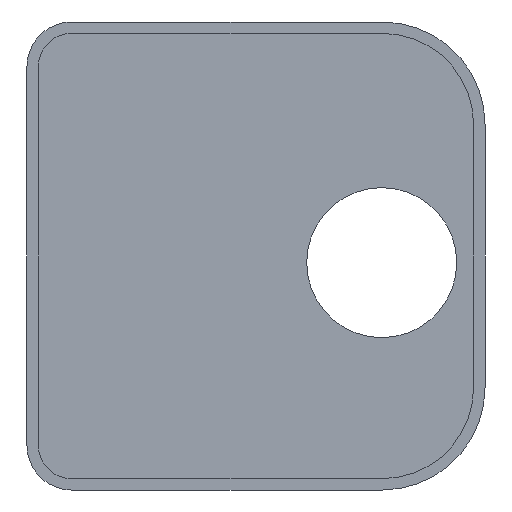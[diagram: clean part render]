
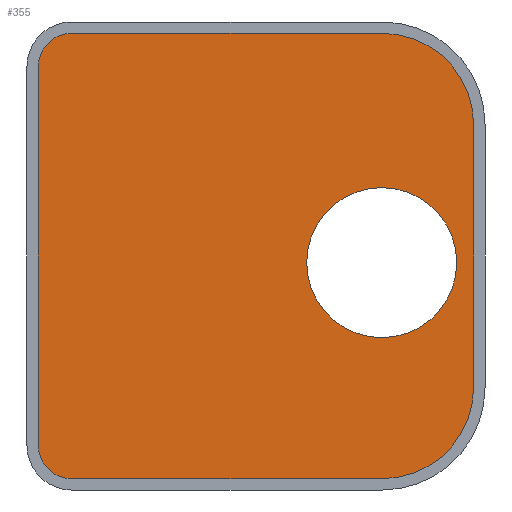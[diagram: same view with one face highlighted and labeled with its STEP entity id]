
A CAD part, front view. The second image highlights one B-rep face of the part: STEP entity #355.
In plain terms, the highlighted planar face has unit normal (0, -1, 0).
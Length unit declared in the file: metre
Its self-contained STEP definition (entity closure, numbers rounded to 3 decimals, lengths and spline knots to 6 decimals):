
#13=CIRCLE('',#382,0.003983);
#15=CIRCLE('',#386,0.001449);
#17=CIRCLE('',#390,0.001449);
#18=CIRCLE('',#393,0.003278);
#21=CIRCLE('',#397,0.003983);
#73=ORIENTED_EDGE('',*,*,#161,.T.);
#74=ORIENTED_EDGE('',*,*,#141,.T.);
#75=ORIENTED_EDGE('',*,*,#164,.F.);
#76=ORIENTED_EDGE('',*,*,#159,.F.);
#77=ORIENTED_EDGE('',*,*,#156,.F.);
#78=ORIENTED_EDGE('',*,*,#153,.F.);
#79=ORIENTED_EDGE('',*,*,#150,.F.);
#80=ORIENTED_EDGE('',*,*,#147,.T.);
#81=ORIENTED_EDGE('',*,*,#144,.F.);
#141=EDGE_CURVE('',#192,#191,#225,.T.);
#144=EDGE_CURVE('',#192,#194,#13,.T.);
#147=EDGE_CURVE('',#196,#194,#229,.T.);
#150=EDGE_CURVE('',#196,#198,#15,.T.);
#153=EDGE_CURVE('',#198,#200,#233,.T.);
#156=EDGE_CURVE('',#200,#202,#17,.T.);
#159=EDGE_CURVE('',#202,#204,#237,.T.);
#161=EDGE_CURVE('',#205,#205,#18,.T.);
#164=EDGE_CURVE('',#204,#191,#21,.T.);
#191=VERTEX_POINT('',#533);
#192=VERTEX_POINT('',#535);
#194=VERTEX_POINT('',#541);
#196=VERTEX_POINT('',#547);
#198=VERTEX_POINT('',#553);
#200=VERTEX_POINT('',#559);
#202=VERTEX_POINT('',#565);
#204=VERTEX_POINT('',#571);
#205=VERTEX_POINT('',#575);
#225=LINE('',#534,#257);
#229=LINE('',#546,#261);
#233=LINE('',#558,#265);
#237=LINE('',#570,#269);
#257=VECTOR('',#423,1.);
#261=VECTOR('',#435,1.);
#265=VECTOR('',#447,1.);
#269=VECTOR('',#459,1.);
#297=EDGE_LOOP('',(#73));
#298=EDGE_LOOP('',(#74,#75,#76,#77,#78,#79,#80,#81));
#321=FACE_BOUND('',#297,.T.);
#322=FACE_BOUND('',#298,.T.);
#339=PLANE('',#398);
#355=ADVANCED_FACE('',(#321,#322),#339,.F.);
#382=AXIS2_PLACEMENT_3D('',#540,#429,#430);
#386=AXIS2_PLACEMENT_3D('',#552,#441,#442);
#390=AXIS2_PLACEMENT_3D('',#564,#453,#454);
#393=AXIS2_PLACEMENT_3D('',#574,#463,#464);
#397=AXIS2_PLACEMENT_3D('',#580,#471,#472);
#398=AXIS2_PLACEMENT_3D('',#581,#473,#474);
#423=DIRECTION('',(0.,0.,1.));
#429=DIRECTION('',(0.,1.,0.));
#430=DIRECTION('',(1.,0.,0.));
#435=DIRECTION('',(1.,0.,0.));
#441=DIRECTION('',(0.,1.,0.));
#442=DIRECTION('',(0.,0.,-1.));
#447=DIRECTION('',(0.,0.,1.));
#453=DIRECTION('',(0.,1.,0.));
#454=DIRECTION('',(-1.,0.,0.));
#459=DIRECTION('',(1.,0.,0.));
#463=DIRECTION('',(0.,1.,0.));
#464=DIRECTION('',(1.,0.,0.));
#471=DIRECTION('',(0.,1.,0.));
#472=DIRECTION('',(0.,0.,1.));
#473=DIRECTION('',(0.,1.,0.));
#474=DIRECTION('',(1.,0.,0.));
#533=CARTESIAN_POINT('',(0.129295,0.01304,0.102865));
#534=CARTESIAN_POINT('',(0.129295,0.01304,0.097125));
#535=CARTESIAN_POINT('',(0.129295,0.01304,0.091385));
#540=CARTESIAN_POINT('',(0.125311,0.01304,0.091385));
#541=CARTESIAN_POINT('',(0.125311,0.01304,0.087401));
#546=CARTESIAN_POINT('',(0.118519,0.01304,0.087401));
#547=CARTESIAN_POINT('',(0.111727,0.01304,0.087401));
#552=CARTESIAN_POINT('',(0.111727,0.01304,0.08885));
#553=CARTESIAN_POINT('',(0.110278,0.01304,0.08885));
#558=CARTESIAN_POINT('',(0.110278,0.01304,0.097125));
#559=CARTESIAN_POINT('',(0.110278,0.01304,0.1054));
#564=CARTESIAN_POINT('',(0.111727,0.01304,0.1054));
#565=CARTESIAN_POINT('',(0.111727,0.01304,0.106849));
#570=CARTESIAN_POINT('',(0.118519,0.01304,0.106849));
#571=CARTESIAN_POINT('',(0.125311,0.01304,0.106849));
#574=CARTESIAN_POINT('',(0.12528,0.01304,0.096835));
#575=CARTESIAN_POINT('',(0.128558,0.01304,0.096835));
#580=CARTESIAN_POINT('',(0.125311,0.01304,0.102865));
#581=CARTESIAN_POINT('',(0.119786,0.01304,0.097125));
